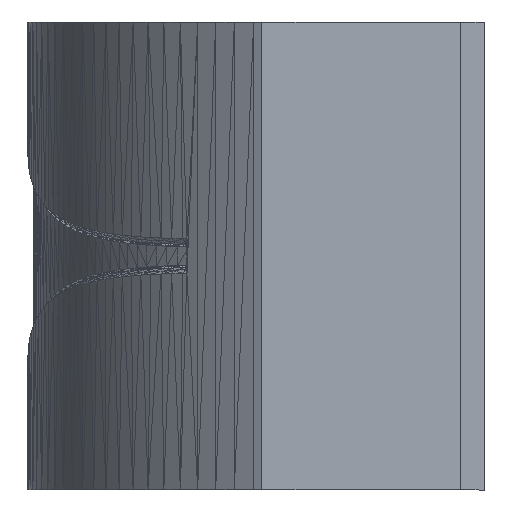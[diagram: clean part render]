
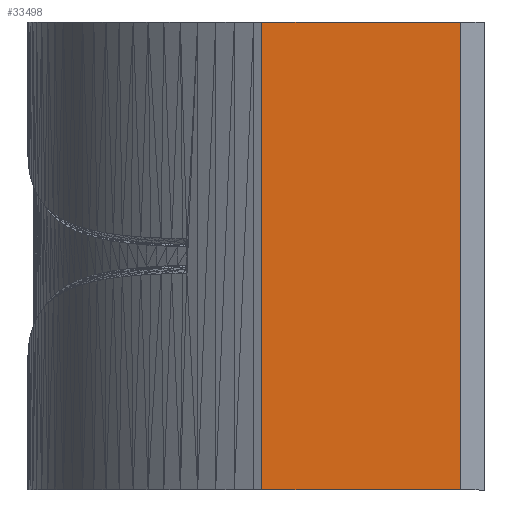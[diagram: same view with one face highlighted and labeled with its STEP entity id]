
A CAD part, front view. The second image highlights one B-rep face of the part: STEP entity #33498.
In plain terms, the highlighted planar face has unit normal (0, -1, 0).
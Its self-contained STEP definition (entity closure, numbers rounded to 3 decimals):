
#996=FACE_OUTER_BOUND('',#3904,.T.);
#3904=EDGE_LOOP('',(#23822,#23823,#23824,#23825));
#7299=LINE('',#51546,#11747);
#7425=LINE('',#51798,#11873);
#7471=LINE('',#51888,#11919);
#7472=LINE('',#51889,#11920);
#11747=VECTOR('',#41764,10.);
#11873=VECTOR('',#41892,10.);
#11919=VECTOR('',#41944,10.);
#11920=VECTOR('',#41945,10.);
#15222=VERTEX_POINT('',#51543);
#15223=VERTEX_POINT('',#51545);
#15347=VERTEX_POINT('',#51795);
#15348=VERTEX_POINT('',#51797);
#17737=EDGE_CURVE('',#15223,#15222,#7299,.T.);
#17863=EDGE_CURVE('',#15347,#15348,#7425,.T.);
#17909=EDGE_CURVE('',#15348,#15222,#7471,.T.);
#17910=EDGE_CURVE('',#15223,#15347,#7472,.T.);
#23822=ORIENTED_EDGE('',*,*,#17737,.T.);
#23823=ORIENTED_EDGE('',*,*,#17909,.F.);
#23824=ORIENTED_EDGE('',*,*,#17863,.F.);
#23825=ORIENTED_EDGE('',*,*,#17910,.F.);
#30592=PLANE('',#36419);
#33498=ADVANCED_FACE('',(#996),#30592,.T.);
#36419=AXIS2_PLACEMENT_3D('',#51887,#41942,#41943);
#41764=DIRECTION('',(1.,0.,0.));
#41892=DIRECTION('',(1.,0.,0.));
#41942=DIRECTION('center_axis',(0.,-1.,0.));
#41943=DIRECTION('ref_axis',(-1.,0.,0.));
#41944=DIRECTION('',(0.,0.,-1.));
#41945=DIRECTION('',(0.,0.,1.));
#51543=CARTESIAN_POINT('',(26.5,31.305,0.));
#51545=CARTESIAN_POINT('',(9.5,31.305,0.));
#51546=CARTESIAN_POINT('',(22.75,31.305,0.));
#51795=CARTESIAN_POINT('',(9.5,31.305,40.));
#51797=CARTESIAN_POINT('',(26.5,31.305,40.));
#51798=CARTESIAN_POINT('',(7.5,31.305,40.));
#51887=CARTESIAN_POINT('Origin',(26.5,31.305,40.));
#51888=CARTESIAN_POINT('',(26.5,31.305,40.));
#51889=CARTESIAN_POINT('',(9.5,31.305,40.));
